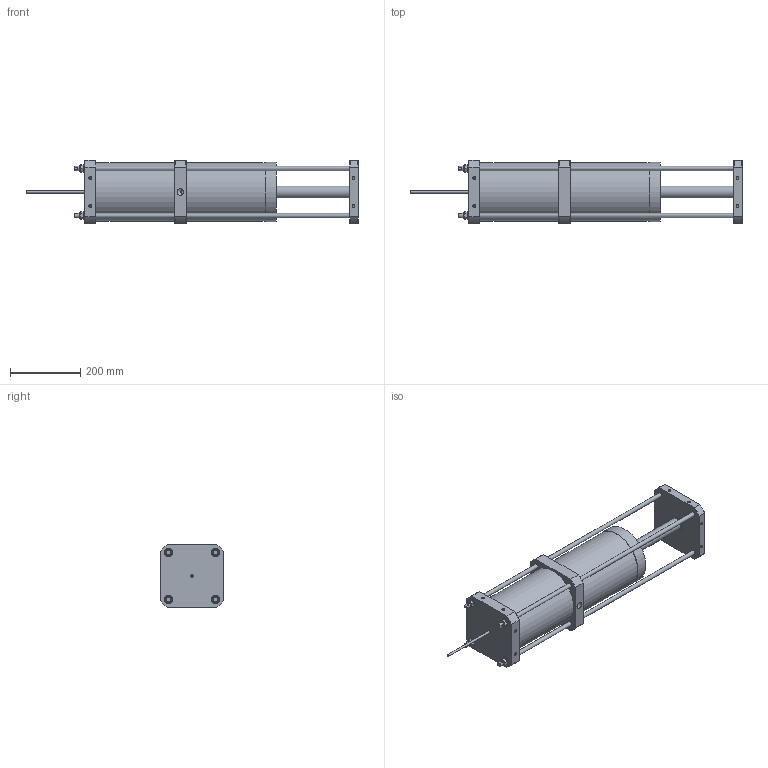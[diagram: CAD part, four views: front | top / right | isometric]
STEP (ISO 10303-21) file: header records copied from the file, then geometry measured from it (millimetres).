
FILE_DESCRIPTION(/* description */ (''),/* implementation_level */ '2;1');
FILE_NAME(/* name */ 'P13-3000.stp',/* time_stamp */ '2026-08-09T19:42:14+02:00',/* author */ ('janos'),/* organization */ (''),/* preprocessor_version */ 'ST-DEVELOPER v19.2',/* originating_system */ 'Autodesk Inventor 2024',/* authorisation */ '');
FILE_SCHEMA (('AUTOMOTIVE_DESIGN { 1 0 10303 214 3 1 1 }'));
Length unit declared in the file: millimetre
Products named in the file (1): 5.BG.160x2.160.1 Pneumatik Komponente_Vereinfachen_1
Bounding box: 948 x 180 x 180 mm (x, y, z)
Volume: 13983709.9 mm3; surface area: 620723.8 mm2
Topology: 1 solids, 1 shells, 249 faces, 620 edges, 393 vertices
Faces by surface type: plane 94, cone 93, cylinder 61, torus 1
Full cylindrical faces by diameter (mm): 6 x1, 6.647 x16, 12 x8, 13 x7, 14.376 x1, 18.631 x3, 24 x4, 34 x1, 45 x1, 168 x2, 170 x1
Entity records: 7736 total; most frequent: CARTESIAN_POINT 1639, DIRECTION 1234, ORIENTED_EDGE 1208, EDGE_CURVE 604, AXIS2_PLACEMENT_3D 498, VERTEX_POINT 393, EDGE_LOOP 305, STYLED_ITEM 250
